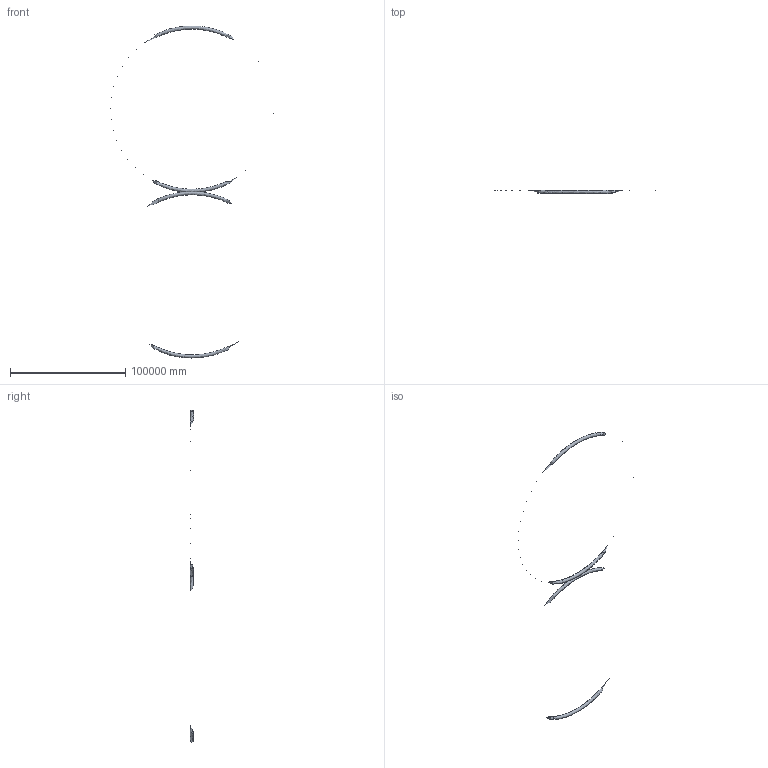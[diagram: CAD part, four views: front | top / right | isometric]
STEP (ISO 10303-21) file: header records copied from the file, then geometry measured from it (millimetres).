
FILE_DESCRIPTION((' '),'2;1');
FILE_NAME( '185101b6524716c3.stp', '2022-12-14T11:08:29', (' '), ('--- Datakit www.datakit.com---'), ' Datakit CrossCadWare V2022.3 Jun 15 2022', 'DATAKIT 2022 (c)', ' ');
FILE_SCHEMA(('CONFIG_CONTROL_DESIGN'));
Length unit declared in the file: millimetre
Products named in the file (1): 185101b53f54ecc3
Bounding box: 141531.58 x 2805 x 288060.99 mm (x, y, z)
Surface area: 7840036876.5 mm2
Topology: 2 solids, 3 shells, 154 faces, 371 edges, 217 vertices
Faces by surface type: torus 36, cylinder 34, bspline 28, plane 27, offset 23, cone 4, revolution 2
Full cylindrical faces by diameter (mm): 35 x1, 52 x2
Entity records: 13763 total; most frequent: CARTESIAN_POINT 10704, ORIENTED_EDGE 676, DIRECTION 512, EDGE_CURVE 338, AXIS2_PLACEMENT_3D 214, VERTEX_POINT 208, EDGE_LOOP 181, ADVANCED_FACE 157
